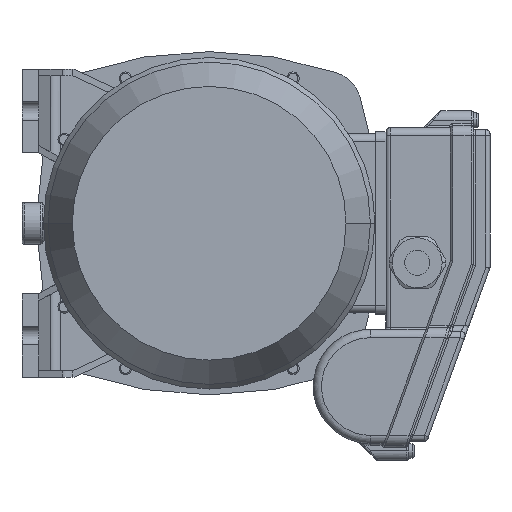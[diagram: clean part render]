
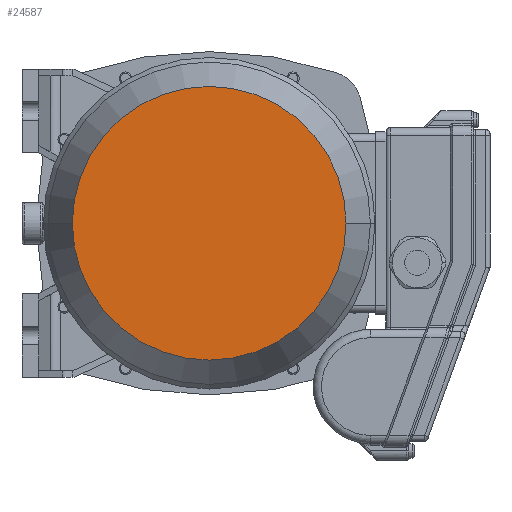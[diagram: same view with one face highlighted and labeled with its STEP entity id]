
A CAD part, front view. The second image highlights one B-rep face of the part: STEP entity #24587.
In plain terms, the highlighted planar face has unit normal (0, -1, 0) as drawn and (1, 0, 0) by its records, which use the part's own axes.
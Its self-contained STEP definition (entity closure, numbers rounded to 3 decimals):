
#18680=CARTESIAN_POINT('',(203.,0.,0.));
#18681=DIRECTION('',(-1.,0.,0.));
#18682=DIRECTION('',(0.,1.,0.));
#18683=AXIS2_PLACEMENT_3D('',#18680,#18681,#18682);
#18688=CARTESIAN_POINT('',(203.,0.,0.));
#18689=DIRECTION('',(1.,0.,0.));
#18690=DIRECTION('',(0.,1.,0.));
#18691=AXIS2_PLACEMENT_3D('',#18688,#18689,#18690);
#19996=CARTESIAN_POINT('',(203.,65.794,0.));
#19998=VERTEX_POINT('',#19996);
#20006=CARTESIAN_POINT('',(203.,-65.794,0.));
#20008=VERTEX_POINT('',#20006);
#24578=CARTESIAN_POINT('',(203.,0.,0.));
#24579=DIRECTION('',(1.,0.,0.));
#24580=DIRECTION('',(0.,-1.,0.));
#24581=AXIS2_PLACEMENT_3D('',#24578,#24579,#24580);
#24582=PLANE('',#24581);
#24583=ORIENTED_EDGE('',*,*,#24560,.T.);
#24584=ORIENTED_EDGE('',*,*,#24571,.F.);
#24585=EDGE_LOOP('',(#24583,#24584));
#24586=FACE_OUTER_BOUND('',#24585,.F.);
#18684=CIRCLE('',#18683,65.794);
#18692=CIRCLE('',#18691,65.794);
#24560=EDGE_CURVE('',#19998,#20008,#18684,.T.);
#24571=EDGE_CURVE('',#19998,#20008,#18692,.T.);
#24587=ADVANCED_FACE('',(#24586),#24582,.T.);
